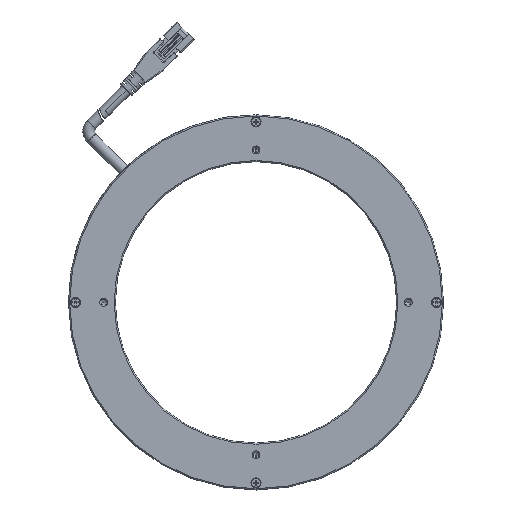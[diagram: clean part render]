
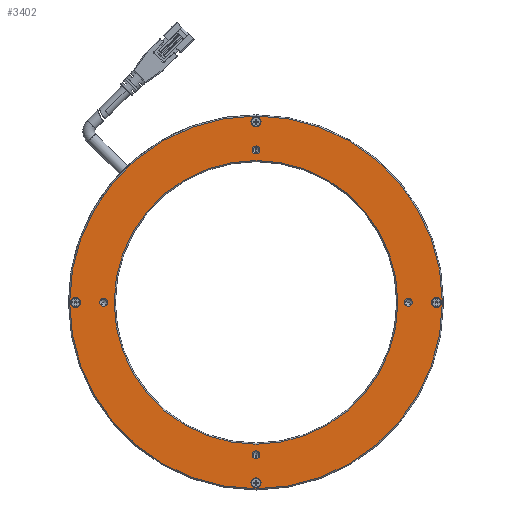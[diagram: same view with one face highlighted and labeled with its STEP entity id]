
A CAD part, top view. The second image highlights one B-rep face of the part: STEP entity #3402.
In plain terms, the highlighted planar face has unit normal (0, 0, 1).
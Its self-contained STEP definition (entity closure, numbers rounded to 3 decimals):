
#323=CARTESIAN_POINT('',(0.,0.,2.));
#324=DIRECTION('',(0.,0.,-1.));
#325=DIRECTION('',(-1.,0.,0.));
#326=AXIS2_PLACEMENT_3D('',#323,#324,#325);
#328=CARTESIAN_POINT('',(0.,0.,2.));
#329=DIRECTION('',(0.,0.,-1.));
#330=DIRECTION('',(1.,0.,0.));
#331=AXIS2_PLACEMENT_3D('',#328,#329,#330);
#333=CARTESIAN_POINT('',(65.,0.,2.));
#334=DIRECTION('',(0.,0.,-1.));
#335=DIRECTION('',(-1.,0.,0.));
#336=AXIS2_PLACEMENT_3D('',#333,#334,#335);
#338=CARTESIAN_POINT('',(65.,0.,2.));
#339=DIRECTION('',(0.,0.,-1.));
#340=DIRECTION('',(1.,0.,0.));
#341=AXIS2_PLACEMENT_3D('',#338,#339,#340);
#343=CARTESIAN_POINT('',(0.,-65.,2.));
#344=DIRECTION('',(0.,0.,-1.));
#345=DIRECTION('',(0.,1.,0.));
#346=AXIS2_PLACEMENT_3D('',#343,#344,#345);
#348=CARTESIAN_POINT('',(0.,-65.,2.));
#349=DIRECTION('',(0.,0.,-1.));
#350=DIRECTION('',(0.,-1.,0.));
#351=AXIS2_PLACEMENT_3D('',#348,#349,#350);
#353=CARTESIAN_POINT('',(-65.,0.,2.));
#354=DIRECTION('',(0.,0.,-1.));
#355=DIRECTION('',(1.,0.,0.));
#356=AXIS2_PLACEMENT_3D('',#353,#354,#355);
#358=CARTESIAN_POINT('',(-65.,0.,2.));
#359=DIRECTION('',(0.,0.,-1.));
#360=DIRECTION('',(-1.,0.,0.));
#361=AXIS2_PLACEMENT_3D('',#358,#359,#360);
#363=CARTESIAN_POINT('',(0.,65.,2.));
#364=DIRECTION('',(0.,0.,-1.));
#365=DIRECTION('',(0.,-1.,0.));
#366=AXIS2_PLACEMENT_3D('',#363,#364,#365);
#368=CARTESIAN_POINT('',(0.,65.,2.));
#369=DIRECTION('',(0.,0.,-1.));
#370=DIRECTION('',(0.,1.,0.));
#371=AXIS2_PLACEMENT_3D('',#368,#369,#370);
#373=CARTESIAN_POINT('',(-77.,0.,2.));
#374=DIRECTION('',(0.,0.,-1.));
#375=DIRECTION('',(-1.,0.,0.));
#376=AXIS2_PLACEMENT_3D('',#373,#374,#375);
#378=CARTESIAN_POINT('',(-77.,0.,2.));
#379=DIRECTION('',(0.,0.,-1.));
#380=DIRECTION('',(1.,0.,0.));
#381=AXIS2_PLACEMENT_3D('',#378,#379,#380);
#383=CARTESIAN_POINT('',(0.,77.,2.));
#384=DIRECTION('',(0.,0.,-1.));
#385=DIRECTION('',(0.,1.,0.));
#386=AXIS2_PLACEMENT_3D('',#383,#384,#385);
#388=CARTESIAN_POINT('',(0.,77.,2.));
#389=DIRECTION('',(0.,0.,-1.));
#390=DIRECTION('',(0.,-1.,0.));
#391=AXIS2_PLACEMENT_3D('',#388,#389,#390);
#393=CARTESIAN_POINT('',(77.,0.,2.));
#394=DIRECTION('',(0.,0.,-1.));
#395=DIRECTION('',(1.,0.,0.));
#396=AXIS2_PLACEMENT_3D('',#393,#394,#395);
#398=CARTESIAN_POINT('',(77.,0.,2.));
#399=DIRECTION('',(0.,0.,-1.));
#400=DIRECTION('',(-1.,0.,0.));
#401=AXIS2_PLACEMENT_3D('',#398,#399,#400);
#403=CARTESIAN_POINT('',(0.,-77.,2.));
#404=DIRECTION('',(0.,0.,-1.));
#405=DIRECTION('',(0.,-1.,0.));
#406=AXIS2_PLACEMENT_3D('',#403,#404,#405);
#408=CARTESIAN_POINT('',(0.,-77.,2.));
#409=DIRECTION('',(0.,0.,-1.));
#410=DIRECTION('',(0.,1.,0.));
#411=AXIS2_PLACEMENT_3D('',#408,#409,#410);
#413=CARTESIAN_POINT('',(0.,0.,2.));
#414=DIRECTION('',(0.,0.,1.));
#415=DIRECTION('',(1.,0.,0.));
#416=AXIS2_PLACEMENT_3D('',#413,#414,#415);
#418=CARTESIAN_POINT('',(0.,0.,2.));
#419=DIRECTION('',(0.,0.,1.));
#420=DIRECTION('',(-1.,0.,0.));
#421=AXIS2_PLACEMENT_3D('',#418,#419,#420);
#2329=CARTESIAN_POINT('',(-79.5,0.,2.));
#2330=CARTESIAN_POINT('',(79.5,0.,2.));
#2331=VERTEX_POINT('',#2329);
#2332=VERTEX_POINT('',#2330);
#2333=CARTESIAN_POINT('',(0.,-74.85,2.));
#2334=CARTESIAN_POINT('',(0.,-79.15,2.));
#2335=VERTEX_POINT('',#2333);
#2336=VERTEX_POINT('',#2334);
#2337=CARTESIAN_POINT('',(74.85,0.,2.));
#2338=CARTESIAN_POINT('',(79.15,0.,2.));
#2339=VERTEX_POINT('',#2337);
#2340=VERTEX_POINT('',#2338);
#2341=CARTESIAN_POINT('',(0.,74.85,2.));
#2342=CARTESIAN_POINT('',(0.,79.15,2.));
#2343=VERTEX_POINT('',#2341);
#2344=VERTEX_POINT('',#2342);
#2345=CARTESIAN_POINT('',(-74.85,0.,2.));
#2346=CARTESIAN_POINT('',(-79.15,0.,2.));
#2347=VERTEX_POINT('',#2345);
#2348=VERTEX_POINT('',#2346);
#2349=CARTESIAN_POINT('',(0.,66.7,2.));
#2350=CARTESIAN_POINT('',(0.,63.3,2.));
#2351=VERTEX_POINT('',#2349);
#2352=VERTEX_POINT('',#2350);
#2353=CARTESIAN_POINT('',(-66.7,0.,2.));
#2354=CARTESIAN_POINT('',(-63.3,0.,2.));
#2355=VERTEX_POINT('',#2353);
#2356=VERTEX_POINT('',#2354);
#2357=CARTESIAN_POINT('',(0.,-66.7,2.));
#2358=CARTESIAN_POINT('',(0.,-63.3,2.));
#2359=VERTEX_POINT('',#2357);
#2360=VERTEX_POINT('',#2358);
#2361=CARTESIAN_POINT('',(66.7,0.,2.));
#2362=CARTESIAN_POINT('',(63.3,0.,2.));
#2363=VERTEX_POINT('',#2361);
#2364=VERTEX_POINT('',#2362);
#2365=CARTESIAN_POINT('',(60.5,0.,2.));
#2366=CARTESIAN_POINT('',(-60.5,0.,2.));
#2367=VERTEX_POINT('',#2365);
#2368=VERTEX_POINT('',#2366);
#3339=CARTESIAN_POINT('',(0.,0.,2.));
#3340=DIRECTION('',(0.,0.,1.));
#3341=DIRECTION('',(-1.,0.,0.));
#3342=AXIS2_PLACEMENT_3D('',#3339,#3340,#3341);
#3343=PLANE('',#3342);
#3345=ORIENTED_EDGE('',*,*,#3344,.F.);
#3347=ORIENTED_EDGE('',*,*,#3346,.F.);
#3348=EDGE_LOOP('',(#3345,#3347));
#3349=FACE_OUTER_BOUND('',#3348,.F.);
#3351=ORIENTED_EDGE('',*,*,#3350,.F.);
#3353=ORIENTED_EDGE('',*,*,#3352,.F.);
#3354=EDGE_LOOP('',(#3351,#3353));
#3355=FACE_BOUND('',#3354,.F.);
#3357=ORIENTED_EDGE('',*,*,#3356,.F.);
#3359=ORIENTED_EDGE('',*,*,#3358,.F.);
#3360=EDGE_LOOP('',(#3357,#3359));
#3361=FACE_BOUND('',#3360,.F.);
#3363=ORIENTED_EDGE('',*,*,#3362,.F.);
#3365=ORIENTED_EDGE('',*,*,#3364,.F.);
#3366=EDGE_LOOP('',(#3363,#3365));
#3367=FACE_BOUND('',#3366,.F.);
#3369=ORIENTED_EDGE('',*,*,#3368,.F.);
#3371=ORIENTED_EDGE('',*,*,#3370,.F.);
#3372=EDGE_LOOP('',(#3369,#3371));
#3373=FACE_BOUND('',#3372,.F.);
#3375=ORIENTED_EDGE('',*,*,#3374,.F.);
#3377=ORIENTED_EDGE('',*,*,#3376,.F.);
#3378=EDGE_LOOP('',(#3375,#3377));
#3379=FACE_BOUND('',#3378,.F.);
#3380=ORIENTED_EDGE('',*,*,#3304,.F.);
#3381=ORIENTED_EDGE('',*,*,#3332,.F.);
#3382=EDGE_LOOP('',(#3380,#3381));
#3383=FACE_BOUND('',#3382,.F.);
#3385=ORIENTED_EDGE('',*,*,#3384,.F.);
#3387=ORIENTED_EDGE('',*,*,#3386,.F.);
#3388=EDGE_LOOP('',(#3385,#3387));
#3389=FACE_BOUND('',#3388,.F.);
#3391=ORIENTED_EDGE('',*,*,#3390,.F.);
#3393=ORIENTED_EDGE('',*,*,#3392,.F.);
#3394=EDGE_LOOP('',(#3391,#3393));
#3395=FACE_BOUND('',#3394,.F.);
#3397=ORIENTED_EDGE('',*,*,#3396,.F.);
#3399=ORIENTED_EDGE('',*,*,#3398,.F.);
#3400=EDGE_LOOP('',(#3397,#3399));
#3401=FACE_BOUND('',#3400,.F.);
#3402=ADVANCED_FACE('',(#3349,#3355,#3361,#3367,#3373,#3379,#3383,#3389,#3395,
#3401),#3343,.T.);
#327=CIRCLE('',#326,60.5);
#332=CIRCLE('',#331,60.5);
#337=CIRCLE('',#336,1.7);
#342=CIRCLE('',#341,1.7);
#347=CIRCLE('',#346,1.7);
#352=CIRCLE('',#351,1.7);
#357=CIRCLE('',#356,1.7);
#362=CIRCLE('',#361,1.7);
#367=CIRCLE('',#366,1.7);
#372=CIRCLE('',#371,1.7);
#377=CIRCLE('',#376,2.15);
#382=CIRCLE('',#381,2.15);
#387=CIRCLE('',#386,2.15);
#392=CIRCLE('',#391,2.15);
#397=CIRCLE('',#396,2.15);
#402=CIRCLE('',#401,2.15);
#407=CIRCLE('',#406,2.15);
#412=CIRCLE('',#411,2.15);
#417=CIRCLE('',#416,79.5);
#422=CIRCLE('',#421,79.5);
#3304=EDGE_CURVE('',#2344,#2343,#387,.T.);
#3332=EDGE_CURVE('',#2343,#2344,#392,.T.);
#3344=EDGE_CURVE('',#2332,#2331,#417,.T.);
#3346=EDGE_CURVE('',#2331,#2332,#422,.T.);
#3350=EDGE_CURVE('',#2364,#2363,#337,.T.);
#3352=EDGE_CURVE('',#2363,#2364,#342,.T.);
#3356=EDGE_CURVE('',#2360,#2359,#347,.T.);
#3358=EDGE_CURVE('',#2359,#2360,#352,.T.);
#3362=EDGE_CURVE('',#2356,#2355,#357,.T.);
#3364=EDGE_CURVE('',#2355,#2356,#362,.T.);
#3368=EDGE_CURVE('',#2352,#2351,#367,.T.);
#3370=EDGE_CURVE('',#2351,#2352,#372,.T.);
#3374=EDGE_CURVE('',#2348,#2347,#377,.T.);
#3376=EDGE_CURVE('',#2347,#2348,#382,.T.);
#3384=EDGE_CURVE('',#2340,#2339,#397,.T.);
#3386=EDGE_CURVE('',#2339,#2340,#402,.T.);
#3390=EDGE_CURVE('',#2336,#2335,#407,.T.);
#3392=EDGE_CURVE('',#2335,#2336,#412,.T.);
#3396=EDGE_CURVE('',#2368,#2367,#327,.T.);
#3398=EDGE_CURVE('',#2367,#2368,#332,.T.);
